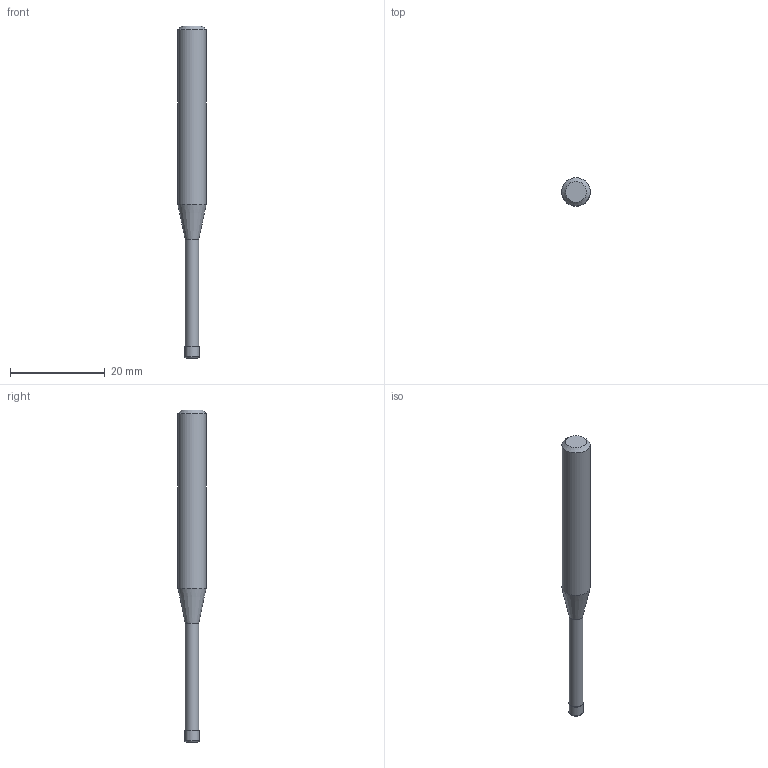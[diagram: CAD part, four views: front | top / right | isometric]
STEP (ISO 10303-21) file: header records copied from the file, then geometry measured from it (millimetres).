
FILE_DESCRIPTION((''),'2;1');
FILE_NAME('C:\Users\nsx150\AppData\Local\Temp\Mastercam 2021\3SYKECWX22\TEMP.step','2021-04-22T09:50:48',(''),(''),'STEP Write','Mastercam 2021 ... CNC Software, Inc.','');
FILE_SCHEMA(('AUTOMOTIVE_DESIGN'));
Length unit declared in the file: millimetre
Products named in the file (1): None
Bounding box: 6 x 6 x 70 mm (x, y, z)
Volume: 1337.1 mm3; surface area: 1076.8 mm2
Topology: 2 solids, 2 shells, 10 faces, 14 edges, 8 vertices
Faces by surface type: plane 4, cylinder 3, cone 2, torus 1
Full cylindrical faces by diameter (mm): 2.85 x1, 3 x1, 6 x1
Entity records: 232 total; most frequent: DIRECTION 40, CARTESIAN_POINT 28, AXIS2_PLACEMENT_3D 20, ORIENTED_EDGE 16, EDGE_LOOP 16, STYLED_ITEM 13, ADVANCED_FACE 10, FACE_BOUND 10
